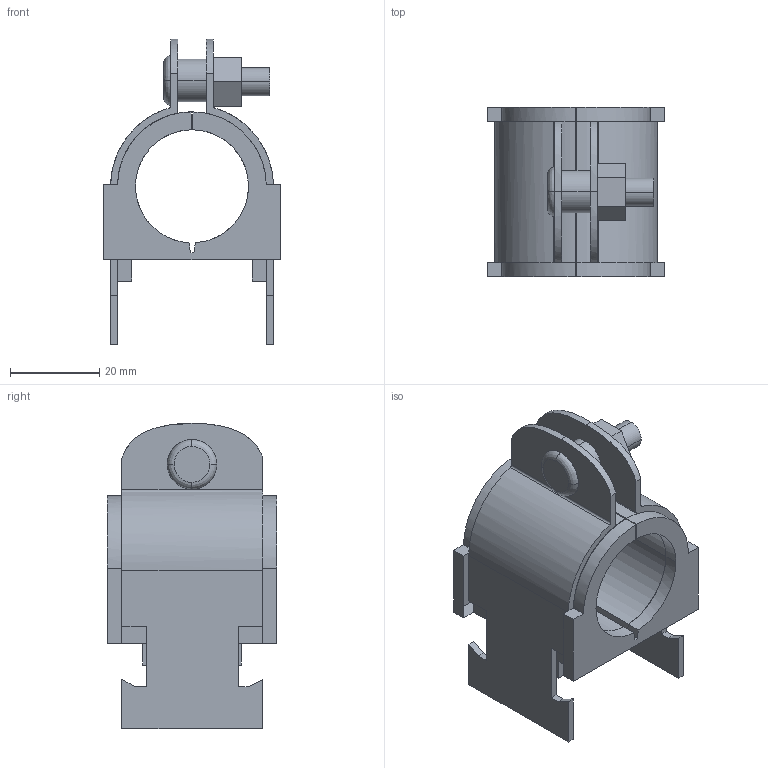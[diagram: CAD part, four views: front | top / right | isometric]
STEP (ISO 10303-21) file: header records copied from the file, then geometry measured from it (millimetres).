
FILE_DESCRIPTION(('TurboCAD Mac Pro'),'Build 980');
FILE_NAME('016T020.stp',' ',(''),(''),'ACIS Interop','IMSI','TurboCAD Mac Pro BY IMSI, INCORPORATED');
FILE_SCHEMA(('automotive_design'));
Length unit declared in the file: inch
Products named in the file (3): 1; 2; 3
Bounding box: 39.74 x 38.1 x 68.58 mm (x, y, z)
Volume: 28032.6 mm3; surface area: 19968.1 mm2
Topology: 3 solids, 3 shells, 143 faces, 384 edges, 250 vertices
Faces by surface type: plane 97, bspline 46
Entity records: 6172 total; most frequent: CARTESIAN_POINT 1710, ORIENTED_EDGE 768, DIRECTION 492, EDGE_CURVE 384, LINE 284, VECTOR 284, VERTEX_POINT 250, STYLED_ITEM 146
